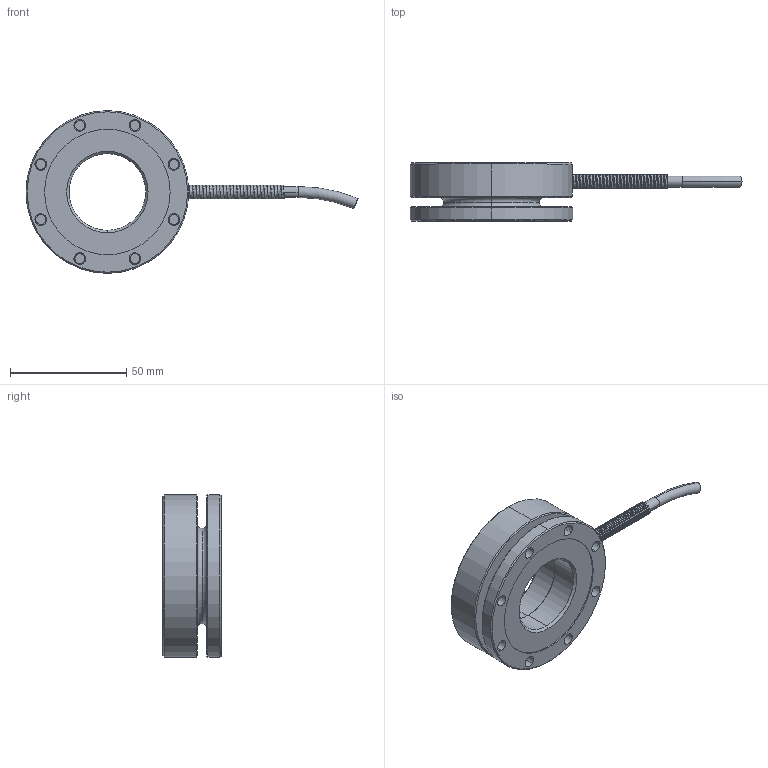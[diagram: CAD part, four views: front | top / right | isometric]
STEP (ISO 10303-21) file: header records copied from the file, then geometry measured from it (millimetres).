
FILE_DESCRIPTION (( 'STEP AP214' ), '1' );
FILE_NAME ('PFLC(Press Force LC)-LC - AN1015,AN1125,AN1126,AN1127.STEP', '2020-04-11T08:26:12', ( '' ), ( '' ), 'SwSTEP 2.0', 'SolidWorks 2011', '' );
FILE_SCHEMA (( 'AUTOMOTIVE_DESIGN' ));
Length unit declared in the file: millimetre
Products named in the file (5): PFLC(Press Force LC)-LC - AN1015,AN1125,AN1126,AN1127; MMACH-A005631; Copy of 3.2mm^PFLC-LC-MC; SPR-A007682; MMACH-A005632
Assembly tree (4 placements, depth 2):
  PFLC(Press Force LC)-LC - AN1015,AN1125,AN1126,AN1127
    Copy of 3.2mm^PFLC-LC-MC
    MMACH-A005631
    MMACH-A005632
    SPR-A007682
Bounding box: 142.8 x 25 x 70 mm (x, y, z)
Volume: 60536.1 mm3; surface area: 28932.1 mm2
Topology: 4 solids, 4 shells, 152 faces, 321 edges, 208 vertices
Faces by surface type: cylinder 90, plane 38, cone 12, torus 10, bspline 2
Entity records: 19959 total; most frequent: CARTESIAN_POINT 16190, DIRECTION 843, ORIENTED_EDGE 642, AXIS2_PLACEMENT_3D 371, EDGE_CURVE 321, CIRCLE 214, VERTEX_POINT 208, EDGE_LOOP 203
